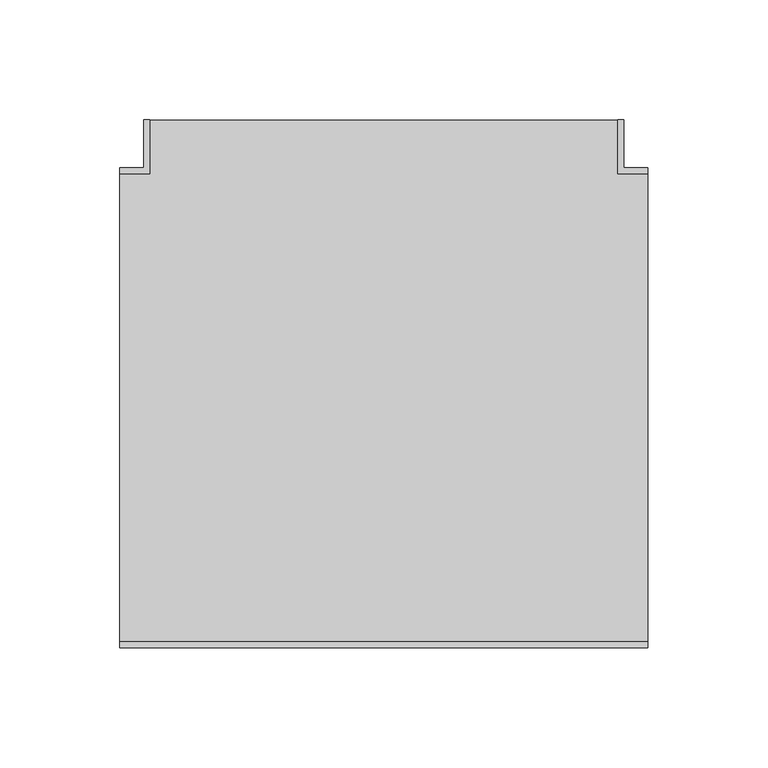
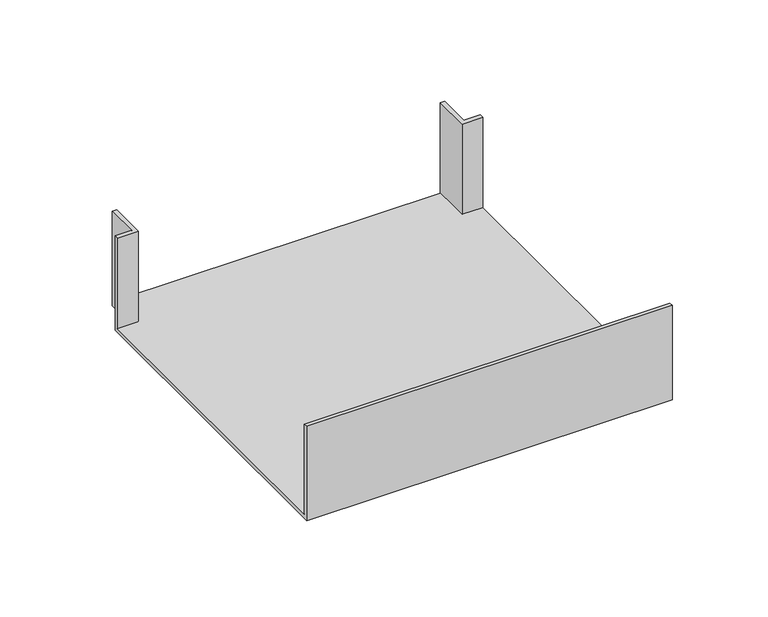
"""IFC4 building model written with IfcOpenShell, lengths in millimetres: cable carrier fitting geometry, КНС_ТройникNTAN_ILC_DKC : Тройник/отвод."""

from ifc_helpers import new_model, si_unit, origin, place, context, project, spatial, faceted_brep, source, transform, mapped, element, save


def cable_carrier_fitting_08323b9c(model_context):
    return source(origin(), model_context, "Body", "Brep", [
        faceted_brep([(110.0, -97.5, -27.5), (110.0, 97.5, -27.5), (97.5, 97.5, -27.5), (97.5, 120.0, -27.5), (-97.5, 120.0, -27.5), (-97.5, 97.5, -27.5), (-110.0, 97.5, -27.5), (-110.0, -97.5, -27.5), (110.0, -100.0, -30.0), (-110.0, -100.0, -30.0), (-110.0, 100.0, -30.0), (-100.0, 100.0, -30.0), (-100.0, 120.0, -30.0), (100.0, 120.0, -30.0), (100.0, 100.0, -30.0), (110.0, 100.0, -30.0), (110.0, 100.0, 30.0), (110.0, 97.5, 30.0), (110.0, -97.5, 30.0), (110.0, -100.0, 30.0), (100.0, 100.0, 30.0), (100.0, 120.0, 30.0), (-100.0, 120.0, 30.0), (-97.5, 120.0, 30.0), (97.5, 120.0, 30.0), (-100.0, 100.0, 30.0), (-110.0, 100.0, 30.0), (-110.0, -100.0, 30.0), (-110.0, -97.5, 30.0), (-110.0, 97.5, 30.0), (97.5, 97.5, 30.0), (-97.5, 97.5, 30.0)], [[[0, 1, 2, 3, 4, 5, 6, 7]], [[8, 9, 10, 11, 12, 13, 14, 15]], [[8, 15, 16, 17, 1, 0, 18, 19]], [[16, 15, 14, 20]], [[20, 14, 13, 21]], [[21, 13, 12, 22, 23, 4, 3, 24]], [[22, 12, 11, 25]], [[25, 11, 10, 26]], [[26, 10, 9, 27, 28, 7, 6, 29]], [[27, 9, 8, 19]], [[20, 21, 24, 30, 17, 16]], [[25, 26, 29, 31, 23, 22]], [[27, 19, 18, 28]], [[31, 29, 6, 5]], [[23, 31, 5, 4]], [[30, 24, 3, 2]], [[17, 30, 2, 1]], [[28, 18, 0, 7]]]),
    ])


if __name__ == "__main__":
    model = new_model("IFC4")
    model_context = context("Model", 3, world=origin())
    ifc_project = project(units=[si_unit("LENGTHUNIT", "METRE", prefix="MILLI")], contexts=[model_context])
    site = spatial("IfcSite", under=ifc_project)
    building = spatial("IfcBuilding", under=site)
    placement = place(None, origin())
    cable_carrier_fitting_shape = cable_carrier_fitting_08323b9c(model_context)
    element("IfcCableCarrierFitting", 1, ObjectType="КНС_ТройникNTAN_ILC_DKC : Тройник/отвод", at=placement, inside=building, context=model_context, shape_type="MappedRepresentation", body=[
        mapped(cable_carrier_fitting_shape, transform((0.0, 0.0, 0.0), x_axis=(1.0, 0.0, 0.0), y_axis=(0.0, 1.0, 0.0), z_axis=(0.0, 0.0, 1.0))),
    ])
    save(model, "model.ifc")
